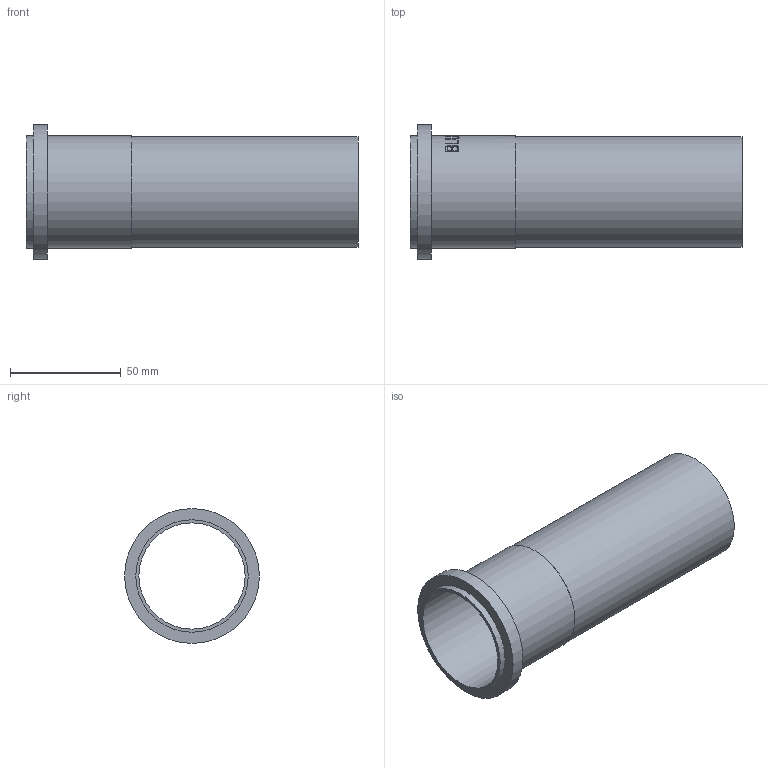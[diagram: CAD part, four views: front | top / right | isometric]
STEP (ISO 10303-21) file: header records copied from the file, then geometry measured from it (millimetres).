
FILE_DESCRIPTION((''),'2;1');
FILE_NAME('I:\WATTS\3D_CAD\3D_CAD_Models\Blucher_Drains\P_StraightPipe\WebsiteFiles\3D\STEP\P2-0.5-316.stp','2009-12-02T11:47:20',('menesek'),(''),'Autodesk Inventor 2010','Autodesk Inventor 2010','');
FILE_SCHEMA(('AUTOMOTIVE_DESIGN { 1 0 10303 214 1 1 1 1 }'));
Length unit declared in the file: inch
Products named in the file (1): P2-0.5-316
Bounding box: 150 x 60.96 x 60.96 mm (x, y, z)
Volume: 31994.4 mm3; surface area: 48792 mm2
Topology: 1 solids, 1 shells, 109 faces, 285 edges, 190 vertices
Faces by surface type: plane 59, bspline 34, cylinder 16
Full cylindrical faces by diameter (mm): 48.006 x1, 50.038 x1, 50.8 x2, 60.96 x1
Entity records: 13765 total; most frequent: CARTESIAN_POINT 11387, ORIENTED_EDGE 548, DIRECTION 356, EDGE_CURVE 274, VERTEX_POINT 186, EDGE_LOOP 128, AXIS2_PLACEMENT_3D 120, VECTOR 116
